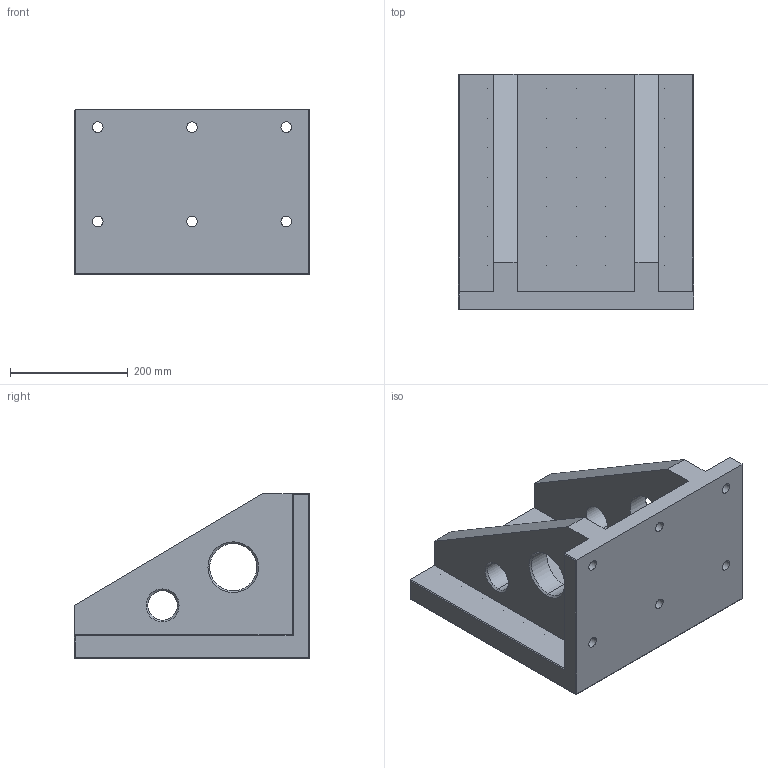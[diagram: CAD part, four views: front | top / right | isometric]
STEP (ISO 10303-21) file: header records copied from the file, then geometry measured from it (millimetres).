
FILE_DESCRIPTION((''),'2;1');
FILE_NAME('FG_WH_ANGPL_ANG12NP001','2026-05-22T12:18:23',('Admin'),(''),'CREO PARAMETRIC BY PTC INC, 2025010','CREO PARAMETRIC BY PTC INC, 2025010','');
FILE_SCHEMA(('CONFIG_CONTROL_DESIGN'));
Length unit declared in the file: millimetre
Products named in the file (1): FG_WH_ANGPL_ANG12NP001
Bounding box: 400 x 400 x 280 mm (x, y, z)
Volume: 13162772.4 mm3; surface area: 925923.2 mm2
Topology: 1 solids, 50 shells, 567 faces, 1369 edges, 859 vertices
Faces by surface type: cylinder 326, plane 135, cone 106
Entity records: 16163 total; most frequent: DIRECTION 3165, CARTESIAN_POINT 2698, ORIENTED_EDGE 2346, AXIS2_PLACEMENT_3D 1326, EDGE_CURVE 1271, VERTEX_POINT 859, CIRCLE 758, EDGE_LOOP 740
